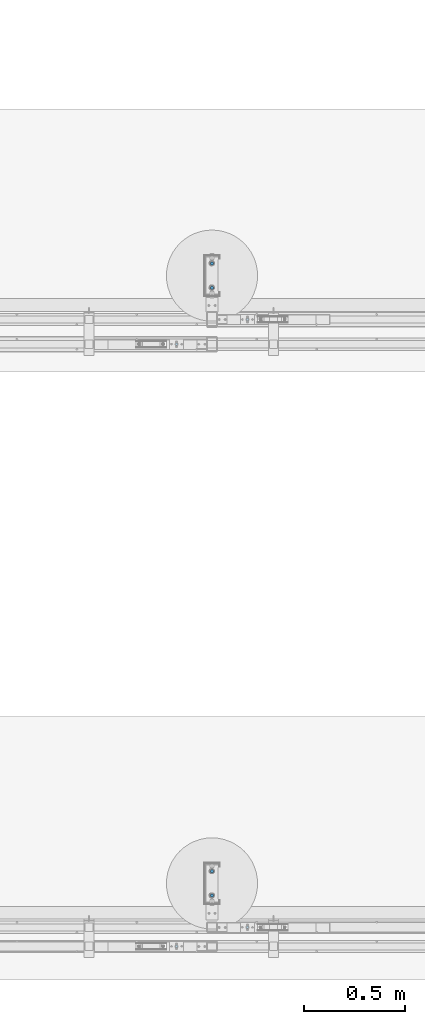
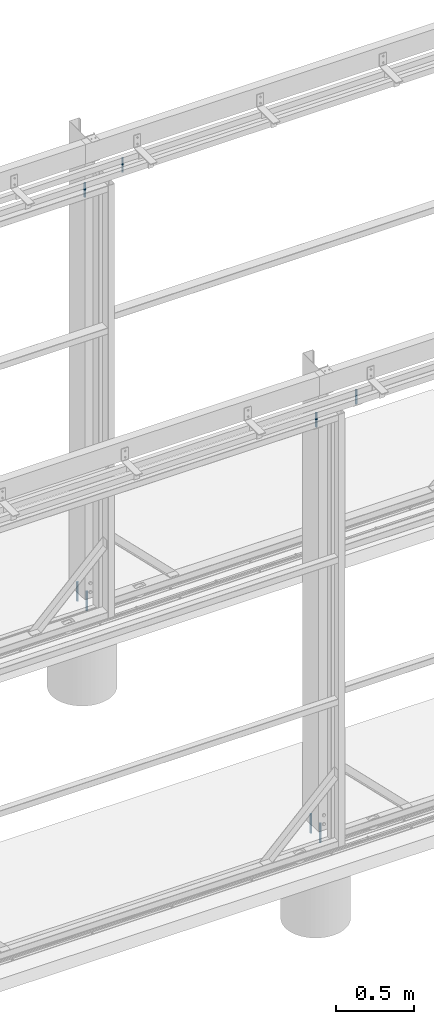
# One storey, part 5 of 91: 8 columns, 8 elements without a shape of their own.
"""IFC2X3 building model written with IfcOpenShell, lengths in millimetres."""

import ifcopenshell
import ifcopenshell.guid

model = None  # the IFC model being written
_history = None  # IfcOwnerHistory: only IFC2X3 demands one
_inside = {}  # id of a spatial element -> (the spatial element, [elements in it])
_under = {}  # id of a project, library or spatial element -> (it, [spatial elements below it])
_declared = {}  # id of a project -> (the project, [libraries it declares])
_typed = {}  # id of a type object -> (the type object, [elements of that type])
_made_of = {}  # id of a material, layer set ... -> (it, [elements and type objects made of it])


def new_model(schema):
    """Start an empty IFC model of exactly this schema.

    Asked for "IFC4X3", IfcOpenShell would pick the latest addendum, in which some entities
    have other attributes; the version numbers below select the first issue.
    IFC2X3 requires an IfcOwnerHistory on every rooted entity: one is made here for all.
    """
    global model, _history
    if schema == "IFC4X3":
        model = ifcopenshell.file(schema_version=(4, 3, 0, 0))
    else:
        model = ifcopenshell.file(schema=schema)
    _inside.clear()
    _under.clear()
    _declared.clear()
    _typed.clear()
    _made_of.clear()
    _history = None
    if model.schema == "IFC2X3":
        org = make("IfcOrganization", Name="unknown")
        user = make(
            "IfcPersonAndOrganization",
            ThePerson=make("IfcPerson", FamilyName="unknown"),
            TheOrganization=org,
        )
        app = make(
            "IfcApplication",
            ApplicationDeveloper=org,
            Version="unknown",
            ApplicationFullName="unknown",
            ApplicationIdentifier="unknown",
        )
        _history = make(
            "IfcOwnerHistory",
            OwningUser=user,
            OwningApplication=app,
            ChangeAction="ADDED",
            CreationDate=0,
        )
    return model


def make(cls, **values):
    """One entity of the class cls with the attributes given. An attribute that is None is left unset."""
    return model.create_entity(
        cls, **{name: value for name, value in values.items() if value is not None}
    )


def rooted(cls, **values):
    """An entity with a GlobalId (a new one), such as an element, a storey or a relation."""
    return make(cls, GlobalId=ifcopenshell.guid.new(), OwnerHistory=_history, **values)


def si_unit(unit_type, name, prefix=None):
    """IfcSIUnit, for example si_unit("LENGTHUNIT", "METRE", prefix="MILLI")."""
    return make("IfcSIUnit", UnitType=unit_type, Prefix=prefix, Name=name)


def assignment(units):
    """IfcUnitAssignment: the units of a project."""
    return None if units is None else make("IfcUnitAssignment", Units=units)


def point(xyz):
    """IfcCartesianPoint."""
    return None if xyz is None else make("IfcCartesianPoint", Coordinates=xyz)


def direction(xyz):
    """IfcDirection."""
    return None if xyz is None else make("IfcDirection", DirectionRatios=xyz)


def frame(location, z_axis=None, x_axis=None):
    """IfcAxis2Placement3D, a coordinate frame: its origin and axes. An axis left out is left unset."""
    return make(
        "IfcAxis2Placement3D",
        Location=point(location),
        Axis=direction(z_axis),
        RefDirection=direction(x_axis),
    )


def frame_2d(location, x_axis=None):
    """IfcAxis2Placement2D, a coordinate frame in the plane: its origin and x axis."""
    return make(
        "IfcAxis2Placement2D", Location=point(location), RefDirection=direction(x_axis)
    )


def origin_with_axes():
    """The frame at (0, 0, 0) with the z axis (0, 0, 1) and the x axis (1, 0, 0) written out."""
    return frame((0.0, 0.0, 0.0), z_axis=(0.0, 0.0, 1.0), x_axis=(1.0, 0.0, 0.0))


def origin_2d_with_axis():
    """The frame at (0, 0) in the plane with the x axis (1, 0) written out."""
    return frame_2d((0.0, 0.0), x_axis=(1.0, 0.0))


def place(relative_to, where):
    """IfcLocalPlacement: puts the frame where relative to a parent placement (None: the world)."""
    return make(
        "IfcLocalPlacement", PlacementRelTo=relative_to, RelativePlacement=where
    )


def context(
    kind, dimensions, precision=None, world=None, true_north=None, identifier=None
):
    """IfcGeometricRepresentationContext, for example the 3D "Model" context."""
    return make(
        "IfcGeometricRepresentationContext",
        ContextIdentifier=identifier,
        ContextType=kind,
        CoordinateSpaceDimension=dimensions,
        Precision=precision,
        WorldCoordinateSystem=world,
        TrueNorth=true_north,
    )


def subcontext(parent, identifier, kind, view, scale=None):
    """IfcGeometricRepresentationSubContext, for example "Body" below "Model"."""
    return make(
        "IfcGeometricRepresentationSubContext",
        ContextIdentifier=identifier,
        ContextType=kind,
        ParentContext=parent,
        TargetScale=scale,
        TargetView=view,
    )


def project(units=None, contexts=None):
    """IfcProject with its units and contexts."""
    return rooted(
        "IfcProject",
        Name="project",
        RepresentationContexts=contexts,
        UnitsInContext=assignment(units),
    )


def spatial(cls, under=None, at=None, **own):
    """A site, building, storey or space (cls), placed at a placement, below another one or the project."""
    s = rooted(cls, ObjectPlacement=at, **own)
    if under is not None:
        _under.setdefault(under.id(), (under, []))[1].append(s)
    return s


def profile(cls, at=None, kind="AREA", **sizes):
    """A parametric profile (cls). Its sizes go by their IFC names, for example OverallWidth=200.0."""
    return make(cls, ProfileType=kind, Position=at, **sizes)


def circle(**sizes):
    """IfcCircleProfileDef."""
    return profile("IfcCircleProfileDef", **sizes)


def extrude(swept, where, along, depth):
    """IfcExtrudedAreaSolid: the profile swept, set in the frame where, extruded along a direction by depth."""
    return make(
        "IfcExtrudedAreaSolid",
        SweptArea=swept,
        Position=where,
        ExtrudedDirection=direction(along),
        Depth=depth,
    )


def boolean(op, a, b):
    """IfcBooleanResult of two solids."""
    return make("IfcBooleanResult", Operator=op, FirstOperand=a, SecondOperand=b)


def shape(context_of_items, identifier, shape_type, items):
    """IfcShapeRepresentation: the items that make up one representation, for example the "Body"."""
    return make(
        "IfcShapeRepresentation",
        ContextOfItems=context_of_items,
        RepresentationIdentifier=identifier,
        RepresentationType=shape_type,
        Items=items,
    )


def material(Name=None, Category=None):
    """IfcMaterial."""
    return make("IfcMaterial", Name=Name, Category=Category)


def made_of(thing, what):
    """Note that an element or type object is made of a material, layer set ...; save() writes the relation."""
    if what is not None:
        _made_of.setdefault(what.id(), (what, []))[1].append(thing)
    return thing


def type_object(cls, material=None, **own):
    """A type object (cls), such as IfcWallType, which elements share."""
    return made_of(rooted(cls, **own), material)


def element(
    cls,
    number,
    at=None,
    inside=None,
    cuts=None,
    type_object=None,
    material=None,
    context=None,
    identifier="Body",
    shape_type=None,
    held_by="IfcProductDefinitionShape",
    body=None,
    shapes=None,
    **own,
):
    """One element of the class cls, such as IfcWall. Its Tag is "e" and its number.

    at: its placement. inside: the storey or other place that contains it. cuts: it is an
    opening in that element (IfcRelVoidsElement). A single representation is given by context,
    identifier, shape_type and body (its items); several are given by shapes. held_by: the class
    of the entity that holds the representations. save() writes the other relations.
    """
    e = rooted(cls, Tag="e%d" % number, ObjectPlacement=at, **own)
    if body is not None:
        shapes = [shape(context, identifier, shape_type, body)]
    if shapes is not None:
        e.Representation = make(held_by, Representations=shapes)
    if inside is not None:
        _inside.setdefault(inside.id(), (inside, []))[1].append(e)
    if cuts is not None:
        rooted(
            "IfcRelVoidsElement", RelatingBuildingElement=cuts, RelatedOpeningElement=e
        )
    if type_object is not None:
        _typed.setdefault(type_object.id(), (type_object, []))[1].append(e)
    return made_of(e, material)


def aggregate(whole, parts):
    """IfcRelAggregates: a whole, such as a stair, and the parts it consists of."""
    return rooted("IfcRelAggregates", RelatingObject=whole, RelatedObjects=parts)


def save(model, path):
    """Write the relations noted so far, then the file.

    IfcRelAggregates (storeys below a building ...), IfcRelContainedInSpatialStructure (elements
    in a storey), IfcRelDefinesByType, IfcRelAssociatesMaterial and IfcRelDeclares: one each for
    every whole, place, type object, material and project.
    """
    for whole, parts in _under.values():
        aggregate(whole, parts)
    for where, things in _inside.values():
        rooted(
            "IfcRelContainedInSpatialStructure",
            RelatedElements=things,
            RelatingStructure=where,
        )
    for kind, things in _typed.values():
        rooted("IfcRelDefinesByType", RelatedObjects=things, RelatingType=kind)
    for what, things in _made_of.values():
        rooted("IfcRelAssociatesMaterial", RelatedObjects=things, RelatingMaterial=what)
    for by, libraries in _declared.values():
        rooted("IfcRelDeclares", RelatingContext=by, RelatedDefinitions=libraries)
    model.write(path)


model = new_model("IFC2X3")

# Units and contexts
model_context = context("Model", 3, precision=1e-05, world=origin_with_axes())
body_context = subcontext(model_context, "Body", "Model", "MODEL_VIEW")
ifc_project = project(units=[si_unit("LENGTHUNIT", "METRE", prefix="MILLI"), si_unit("AREAUNIT", "SQUARE_METRE"), si_unit("VOLUMEUNIT", "CUBIC_METRE"), si_unit("MASSUNIT", "GRAM", prefix="KILO"), si_unit("TIMEUNIT", "SECOND"), si_unit("PLANEANGLEUNIT", "RADIAN"), si_unit("SOLIDANGLEUNIT", "STERADIAN"), si_unit("THERMODYNAMICTEMPERATUREUNIT", "DEGREE_CELSIUS"), si_unit("LUMINOUSINTENSITYUNIT", "LUMEN")], contexts=[model_context])

# Site, building, storey
site_placement = place(None, origin_with_axes())
site = spatial("IfcSite", under=ifc_project, at=site_placement, Name="Undefined", CompositionType="ELEMENT")
building_placement = place(site_placement, origin_with_axes())
building = spatial("IfcBuilding", under=site, at=building_placement, Name="Undefined", CompositionType="ELEMENT")
storey_placement = place(building_placement, origin_with_axes())
storey = spatial("IfcBuildingStorey", under=building, at=storey_placement, Name="Undefined", CompositionType="ELEMENT", Elevation=0.0)

# Assembly, column
assembly_1_placement = place(storey_placement, origin_with_axes())
assembly_1 = element("IfcElementAssembly", 1, at=assembly_1_placement, inside=storey, Name="ROD", AssemblyPlace="NOTDEFINED", PredefinedType="RIGID_FRAME")
ifc_material_1 = material(Name="STEEL/250")
column_type_1 = type_object("IfcColumnType", Name="D12", PredefinedType="NOTDEFINED")
column_1_placement = place(assembly_1_placement, frame((-110545.84, 87712.15, 3320.0), z_axis=(0.0, 0.0, 1.0), x_axis=(1.0, 0.0, 0.0)))
column_1 = element("IfcColumn", 2, at=column_1_placement, type_object=column_type_1, material=ifc_material_1, Name="ROD", ObjectType="D12", context=body_context, shape_type="CSG", body=[
    boolean("DIFFERENCE", extrude(circle(Radius=6.0, at=origin_2d_with_axis()), frame((0.0, 0.0, 110.0), z_axis=(0.0, 0.0, -1.0), x_axis=(0.0, 1.0, 0.0)), (0.0, 0.0, 1.0), 110.0), extrude(circle(Radius=3.5, at=origin_2d_with_axis()), frame((0.0, 15.0, 101.0), z_axis=(0.0, -1.0, 0.0), x_axis=(0.0, 0.0, -1.0)), (0.0, 0.0, 1.0), 30.0)),
])
aggregate(assembly_1, [column_1])

assembly_2_placement = place(storey_placement, origin_with_axes())
assembly_2 = element("IfcElementAssembly", 3, at=assembly_2_placement, inside=storey, Name="ROD", AssemblyPlace="NOTDEFINED", PredefinedType="RIGID_FRAME")
column_2_placement = place(assembly_2_placement, frame((-110895.84, 87590.15, 3320.0), z_axis=(0.0, 0.0, 1.0), x_axis=(1.0, 0.0, 0.0)))
column_2 = element("IfcColumn", 4, at=column_2_placement, type_object=column_type_1, material=ifc_material_1, Name="ROD", ObjectType="D12", context=body_context, shape_type="CSG", body=[
    boolean("DIFFERENCE", extrude(circle(Radius=6.0, at=origin_2d_with_axis()), frame((0.0, 0.0, 110.0), z_axis=(0.0, 0.0, -1.0), x_axis=(0.0, 1.0, 0.0)), (0.0, 0.0, 1.0), 110.0), extrude(circle(Radius=3.5, at=origin_2d_with_axis()), frame((0.0, 15.0, 101.0), z_axis=(0.0, -1.0, 0.0), x_axis=(0.0, 0.0, -1.0)), (0.0, 0.0, 1.0), 30.0)),
])
aggregate(assembly_2, [column_2])

assembly_3_placement = place(storey_placement, origin_with_axes())
assembly_3 = element("IfcElementAssembly", 5, at=assembly_3_placement, inside=storey, Name="ROD", AssemblyPlace="NOTDEFINED", PredefinedType="RIGID_FRAME")
column_3_placement = place(assembly_3_placement, frame((-110545.84, 84712.15, 3320.0), z_axis=(0.0, 0.0, 1.0), x_axis=(1.0, 0.0, 0.0)))
column_3 = element("IfcColumn", 6, at=column_3_placement, type_object=column_type_1, material=ifc_material_1, Name="ROD", ObjectType="D12", context=body_context, shape_type="CSG", body=[
    boolean("DIFFERENCE", extrude(circle(Radius=6.0, at=origin_2d_with_axis()), frame((0.0, 0.0, 110.0), z_axis=(0.0, 0.0, -1.0), x_axis=(0.0, 1.0, 0.0)), (0.0, 0.0, 1.0), 110.0), extrude(circle(Radius=3.5, at=origin_2d_with_axis()), frame((0.0, 15.0, 101.0), z_axis=(0.0, -1.0, 0.0), x_axis=(0.0, 0.0, -1.0)), (0.0, 0.0, 1.0), 30.0)),
])
aggregate(assembly_3, [column_3])

assembly_4_placement = place(storey_placement, origin_with_axes())
assembly_4 = element("IfcElementAssembly", 7, at=assembly_4_placement, inside=storey, Name="ROD", AssemblyPlace="NOTDEFINED", PredefinedType="RIGID_FRAME")
column_4_placement = place(assembly_4_placement, frame((-110895.84, 84618.15, 3320.0), z_axis=(0.0, 0.0, 1.0), x_axis=(1.0, 0.0, 0.0)))
column_4 = element("IfcColumn", 8, at=column_4_placement, type_object=column_type_1, material=ifc_material_1, Name="ROD", ObjectType="D12", context=body_context, shape_type="CSG", body=[
    boolean("DIFFERENCE", extrude(circle(Radius=6.0, at=origin_2d_with_axis()), frame((0.0, 0.0, 110.0), z_axis=(0.0, 0.0, -1.0), x_axis=(0.0, 1.0, 0.0)), (0.0, 0.0, 1.0), 110.0), extrude(circle(Radius=3.5, at=origin_2d_with_axis()), frame((0.0, 15.0, 101.0), z_axis=(0.0, -1.0, 0.0), x_axis=(0.0, 0.0, -1.0)), (0.0, 0.0, 1.0), 30.0)),
])
aggregate(assembly_4, [column_4])

assembly_5_placement = place(storey_placement, origin_with_axes())
assembly_5 = element("IfcElementAssembly", 9, at=assembly_5_placement, inside=storey, Name="THROUGH BOLTS", AssemblyPlace="NOTDEFINED", PredefinedType="RIGID_FRAME")
ifc_material_2 = material(Name="STEEL/300")
column_type_2 = type_object("IfcColumnType", Name="D16", PredefinedType="NOTDEFINED")
column_5_placement = place(assembly_5_placement, frame((-110720.84, 87868.65, -151.0), z_axis=(0.0, 0.0, 1.0), x_axis=(0.0, 1.0, 0.0)))
column_5 = element("IfcColumn", 10, at=column_5_placement, type_object=column_type_2, material=ifc_material_2, Name="THROUGH BOLTS", ObjectType="D16", context=body_context, shape_type="SweptSolid", body=[
    extrude(circle(Radius=8.0, at=origin_2d_with_axis()), frame((0.0, 0.0, 150.0), z_axis=(0.0, 0.0, -1.0), x_axis=(0.0, 1.0, 0.0)), (0.0, 0.0, 1.0), 150.0),
])
aggregate(assembly_5, [column_5])

assembly_6_placement = place(storey_placement, origin_with_axes())
assembly_6 = element("IfcElementAssembly", 11, at=assembly_6_placement, inside=storey, Name="THROUGH BOLTS", AssemblyPlace="NOTDEFINED", PredefinedType="RIGID_FRAME")
column_6_placement = place(assembly_6_placement, frame((-110720.84, 87988.65, -151.0), z_axis=(0.0, 0.0, 1.0), x_axis=(0.0, 1.0, 0.0)))
column_6 = element("IfcColumn", 12, at=column_6_placement, type_object=column_type_2, material=ifc_material_2, Name="THROUGH BOLTS", ObjectType="D16", context=body_context, shape_type="SweptSolid", body=[
    extrude(circle(Radius=8.0, at=origin_2d_with_axis()), frame((0.0, 0.0, 150.0), z_axis=(0.0, 0.0, -1.0), x_axis=(0.0, 1.0, 0.0)), (0.0, 0.0, 1.0), 150.0),
])
aggregate(assembly_6, [column_6])

assembly_7_placement = place(storey_placement, origin_with_axes())
assembly_7 = element("IfcElementAssembly", 13, at=assembly_7_placement, inside=storey, Name="THROUGH BOLTS", AssemblyPlace="NOTDEFINED", PredefinedType="RIGID_FRAME")
column_7_placement = place(assembly_7_placement, frame((-110720.84, 84868.65, -151.0), z_axis=(0.0, 0.0, 1.0), x_axis=(0.0, 1.0, 0.0)))
column_7 = element("IfcColumn", 14, at=column_7_placement, type_object=column_type_2, material=ifc_material_2, Name="THROUGH BOLTS", ObjectType="D16", context=body_context, shape_type="SweptSolid", body=[
    extrude(circle(Radius=8.0, at=origin_2d_with_axis()), frame((0.0, 0.0, 150.0), z_axis=(0.0, 0.0, -1.0), x_axis=(0.0, 1.0, 0.0)), (0.0, 0.0, 1.0), 150.0),
])
aggregate(assembly_7, [column_7])

assembly_8_placement = place(storey_placement, origin_with_axes())
assembly_8 = element("IfcElementAssembly", 15, at=assembly_8_placement, inside=storey, Name="THROUGH BOLTS", AssemblyPlace="NOTDEFINED", PredefinedType="RIGID_FRAME")
column_8_placement = place(assembly_8_placement, frame((-110720.84, 84988.65, -151.0), z_axis=(0.0, 0.0, 1.0), x_axis=(0.0, 1.0, 0.0)))
column_8 = element("IfcColumn", 16, at=column_8_placement, type_object=column_type_2, material=ifc_material_2, Name="THROUGH BOLTS", ObjectType="D16", context=body_context, shape_type="SweptSolid", body=[
    extrude(circle(Radius=8.0, at=origin_2d_with_axis()), frame((0.0, 0.0, 150.0), z_axis=(0.0, 0.0, -1.0), x_axis=(0.0, 1.0, 0.0)), (0.0, 0.0, 1.0), 150.0),
])
aggregate(assembly_8, [column_8])

save(model, "model.ifc")
